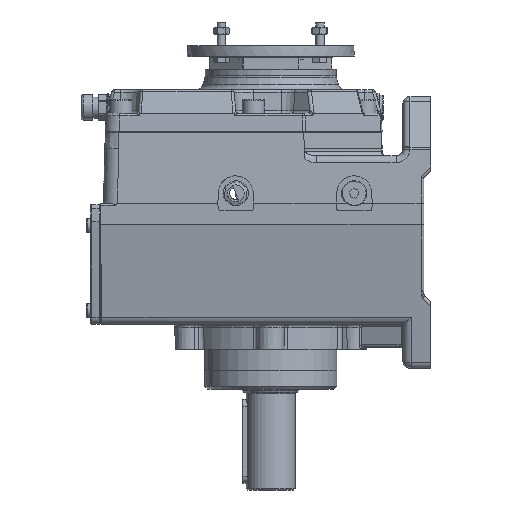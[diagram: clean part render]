
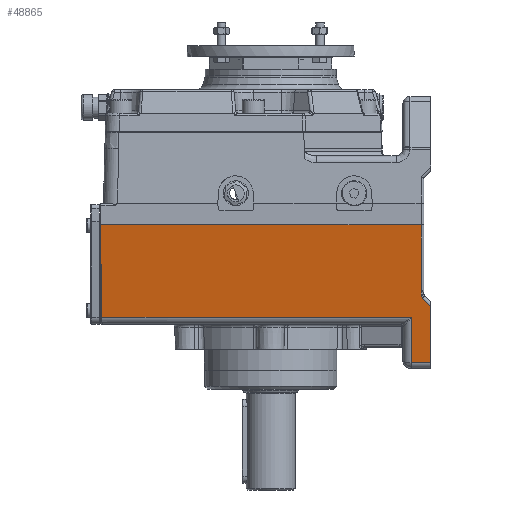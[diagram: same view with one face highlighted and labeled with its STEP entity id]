
A CAD part, left-side view. The second image highlights one B-rep face of the part: STEP entity #48865.
In plain terms, the highlighted planar face has unit normal (-0.985, 0, -0.174).
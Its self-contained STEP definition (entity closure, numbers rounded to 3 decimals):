
#38108=CARTESIAN_POINT('',(-97.233,122.,-28.892));
#38109=VERTEX_POINT('',#38108);
#38117=CARTESIAN_POINT('',(-99.568,122.,-15.646));
#38118=VERTEX_POINT('',#38117);
#38119=CARTESIAN_POINT('',(-99.568,122.0,-15.646));
#38120=DIRECTION('',(0.174,0.0,-0.985));
#38121=VECTOR('',#38120,13.45);
#38122=LINE('',#38119,#38121);
#38123=EDGE_CURVE('',#38118,#38109,#38122,.T.);
#45904=CARTESIAN_POINT('',(-87.861,121.072,-82.042));
#45905=VERTEX_POINT('',#45904);
#47583=CARTESIAN_POINT('',(-89.276,-115.0,-74.017));
#47584=VERTEX_POINT('',#47583);
#47592=CARTESIAN_POINT('',(-82.161,-115.0,-114.368));
#47593=VERTEX_POINT('',#47592);
#47594=CARTESIAN_POINT('',(-82.161,-115.0,-114.368));
#47595=DIRECTION('',(-0.174,0.0,0.985));
#47596=VECTOR('',#47595,40.974);
#47597=LINE('',#47594,#47596);
#47598=EDGE_CURVE('',#47593,#47584,#47597,.T.);
#48769=CARTESIAN_POINT('',(-82.161,-101.,-114.368));
#48770=VERTEX_POINT('',#48769);
#48771=CARTESIAN_POINT('',(-82.161,-115.0,-114.368));
#48772=DIRECTION('',(0.0,1.0,0.0));
#48773=VECTOR('',#48772,14.);
#48774=LINE('',#48771,#48773);
#48775=EDGE_CURVE('',#47593,#48770,#48774,.T.);
#48788=CARTESIAN_POINT('',(-99.594,119.594,-15.5));
#48789=DIRECTION('',(-0.985,0.,-0.174));
#48790=DIRECTION('',(-0.174,0.0,0.985));
#48791=AXIS2_PLACEMENT_3D('',#48788,#48789,#48790);
#48792=PLANE('',#48791);
#48793=ORIENTED_EDGE('',*,*,#38123,.T.);
#48794=CARTESIAN_POINT('',(-87.861,121.072,-82.042));
#48795=DIRECTION('',(-0.174,0.017,0.985));
#48796=VECTOR('',#48795,53.977);
#48797=LINE('',#48794,#48796);
#48798=EDGE_CURVE('',#45905,#38109,#48797,.T.);
#48799=ORIENTED_EDGE('',*,*,#48798,.F.);
#48800=CARTESIAN_POINT('',(-87.861,-101.,-82.042));
#48801=VERTEX_POINT('',#48800);
#48802=CARTESIAN_POINT('',(-87.861,-101.,-82.042));
#48803=DIRECTION('',(0.0,1.0,0.0));
#48804=VECTOR('',#48803,222.072);
#48805=LINE('',#48802,#48804);
#48806=EDGE_CURVE('',#48801,#45905,#48805,.T.);
#48807=ORIENTED_EDGE('',*,*,#48806,.F.);
#48808=CARTESIAN_POINT('',(-82.161,-101.,-114.368));
#48809=DIRECTION('',(-0.174,0.0,0.985));
#48810=VECTOR('',#48809,32.825);
#48811=LINE('',#48808,#48810);
#48812=EDGE_CURVE('',#48770,#48801,#48811,.T.);
#48813=ORIENTED_EDGE('',*,*,#48812,.F.);
#48814=ORIENTED_EDGE('',*,*,#48775,.F.);
#48815=ORIENTED_EDGE('',*,*,#47598,.T.);
#48816=CARTESIAN_POINT('',(-90.302,-109.184,-68.201));
#48817=VERTEX_POINT('',#48816);
#48818=CARTESIAN_POINT('',(-90.302,-109.184,-68.201));
#48819=DIRECTION('',(0.124,-0.702,-0.702));
#48820=VECTOR('',#48819,8.289);
#48821=LINE('',#48818,#48820);
#48822=EDGE_CURVE('',#48817,#47584,#48821,.T.);
#48823=ORIENTED_EDGE('',*,*,#48822,.F.);
#48824=CARTESIAN_POINT('',(-90.661,-108.145,-66.16));
#48825=VERTEX_POINT('',#48824);
#48826=CARTESIAN_POINT('',(-90.763,-111.8,-65.584));
#48827=DIRECTION('',(-0.985,0.,-0.174));
#48828=DIRECTION('',(0.174,0.,-0.985));
#48829=AXIS2_PLACEMENT_3D('',#48826,#48827,#48828);
#48830=ELLIPSE('',#48829,3.757,3.7);
#48831=EDGE_CURVE('',#48825,#48817,#48830,.T.);
#48832=ORIENTED_EDGE('',*,*,#48831,.F.);
#48833=CARTESIAN_POINT('',(-91.546,-108.0,-61.142));
#48834=VERTEX_POINT('',#48833);
#48835=CARTESIAN_POINT('',(-91.546,-108.,-61.142));
#48836=CARTESIAN_POINT('',(-91.545,-108.,-61.147));
#48837=CARTESIAN_POINT('',(-91.545,-108.,-61.151));
#48838=CARTESIAN_POINT('',(-91.485,-108.005,-61.49));
#48839=CARTESIAN_POINT('',(-91.367,-108.013,-62.157));
#48840=CARTESIAN_POINT('',(-91.191,-108.027,-63.159));
#48841=CARTESIAN_POINT('',(-91.014,-108.043,-64.161));
#48842=CARTESIAN_POINT('',(-90.867,-108.061,-64.995));
#48843=CARTESIAN_POINT('',(-90.749,-108.088,-65.662));
#48844=CARTESIAN_POINT('',(-90.69,-108.119,-65.995));
#48845=CARTESIAN_POINT('',(-90.661,-108.145,-66.16));
#48846=B_SPLINE_CURVE_WITH_KNOTS('',3,(#48835,#48836,#48837,#48838,#48839,#48840,#48841,#48842,#48843,#48844,#48845),.UNSPECIFIED.,.F.,.U.,(4,2,1,1,1,1,1,4),(-0.001,0.0,0.102,0.203,0.305,0.407,0.458,0.509),.UNSPECIFIED.);
#48847=EDGE_CURVE('',#48834,#48825,#48846,.T.);
#48848=ORIENTED_EDGE('',*,*,#48847,.F.);
#48849=CARTESIAN_POINT('',(-99.568,-108.,-15.646));
#48850=VERTEX_POINT('',#48849);
#48851=CARTESIAN_POINT('',(-99.568,-108.,-15.646));
#48852=DIRECTION('',(0.174,0.,-0.985));
#48853=VECTOR('',#48852,46.197);
#48854=LINE('',#48851,#48853);
#48855=EDGE_CURVE('',#48850,#48834,#48854,.T.);
#48856=ORIENTED_EDGE('',*,*,#48855,.F.);
#48857=CARTESIAN_POINT('',(-99.568,122.,-15.646));
#48858=DIRECTION('',(0.0,-1.0,0.0));
#48859=VECTOR('',#48858,230.);
#48860=LINE('',#48857,#48859);
#48861=EDGE_CURVE('',#38118,#48850,#48860,.T.);
#48862=ORIENTED_EDGE('',*,*,#48861,.F.);
#48863=EDGE_LOOP('',(#48793,#48799,#48807,#48813,#48814,#48815,#48823,#48832,#48848,#48856,#48862));
#48864=FACE_OUTER_BOUND('',#48863,.T.);
#48865=ADVANCED_FACE('',(#48864),#48792,.T.);
